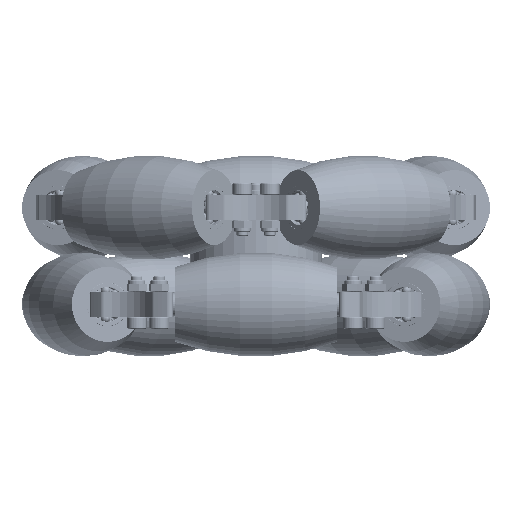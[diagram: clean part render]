
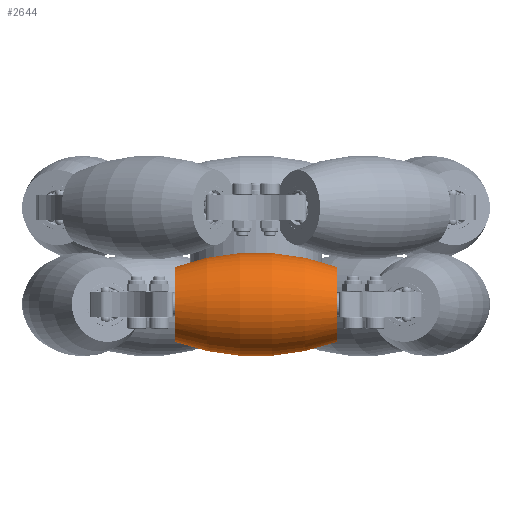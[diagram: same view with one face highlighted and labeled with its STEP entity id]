
A CAD part, front view. The second image highlights one B-rep face of the part: STEP entity #2644.
In plain terms, the highlighted toroidal (fillet/blend) face has major radius 79.1 mm and minor radius 101.6 mm.
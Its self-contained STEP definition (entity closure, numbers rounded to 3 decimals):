
#16 = AXIS2_PLACEMENT_3D ( 'NONE', #12024, #10699, #15831 ) ;
#1170 = CARTESIAN_POINT ( 'NONE',  ( -35., 79.1, -16.281 ) ) ;
#1269 = AXIS2_PLACEMENT_3D ( 'NONE', #7647, #5100, #14099 ) ;
#1321 = CARTESIAN_POINT ( 'NONE',  ( 35., 79.1, -16.281 ) ) ;
#1760 = CARTESIAN_POINT ( 'NONE',  ( 35., 79.1, 0. ) ) ;
#1929 = CARTESIAN_POINT ( 'NONE',  ( 0., 79.1, 79.1 ) ) ;
#2168 = VERTEX_POINT ( 'NONE', #12529 ) ;
#2299 = DIRECTION ( 'NONE',  ( -1., 0., 0. ) ) ;
#2644 = ADVANCED_FACE ( 'NONE', ( #3359 ), #16386, .T. ) ;
#3037 = ORIENTED_EDGE ( 'NONE', *, *, #11366, .F. ) ;
#3359 = FACE_OUTER_BOUND ( 'NONE', #13681, .T. ) ;
#3531 = EDGE_CURVE ( 'NONE', #2168, #6748, #13579, .T. ) ;
#4808 = DIRECTION ( 'NONE',  ( 0., 0., 1. ) ) ;
#5007 = EDGE_CURVE ( 'NONE', #11234, #8457, #9956, .T. ) ;
#5085 = DIRECTION ( 'NONE',  ( 0., 0., 1. ) ) ;
#5100 = DIRECTION ( 'NONE',  ( 0., -1., 0. ) ) ;
#5839 = AXIS2_PLACEMENT_3D ( 'NONE', #1760, #12815, #5085 ) ;
#6748 = VERTEX_POINT ( 'NONE', #1321 ) ;
#7647 = CARTESIAN_POINT ( 'NONE',  ( 0., 79.1, -79.1 ) ) ;
#7677 = EDGE_CURVE ( 'NONE', #6748, #8457, #8257, .T. ) ;
#8257 = CIRCLE ( 'NONE', #12865, 101.6 ) ;
#8457 = VERTEX_POINT ( 'NONE', #1170 ) ;
#8805 = ORIENTED_EDGE ( 'NONE', *, *, #3531, .T. ) ;
#9062 = CARTESIAN_POINT ( 'NONE',  ( -35., 79.1, 16.281 ) ) ;
#9928 = CIRCLE ( 'NONE', #1269, 101.6 ) ;
#9956 = CIRCLE ( 'NONE', #15505, 16.281 ) ;
#10699 = DIRECTION ( 'NONE',  ( -1., 0., 0. ) ) ;
#11234 = VERTEX_POINT ( 'NONE', #9062 ) ;
#11366 = EDGE_CURVE ( 'NONE', #2168, #11234, #9928, .T. ) ;
#12024 = CARTESIAN_POINT ( 'NONE',  ( 0., 79.1, 0. ) ) ;
#12052 = DIRECTION ( 'NONE',  ( 0., 1., 0. ) ) ;
#12529 = CARTESIAN_POINT ( 'NONE',  ( 35., 79.1, 16.281 ) ) ;
#12815 = DIRECTION ( 'NONE',  ( -1., 0., 0. ) ) ;
#12865 = AXIS2_PLACEMENT_3D ( 'NONE', #1929, #12052, #15860 ) ;
#13119 = ORIENTED_EDGE ( 'NONE', *, *, #7677, .T. ) ;
#13579 = CIRCLE ( 'NONE', #5839, 16.281 ) ;
#13681 = EDGE_LOOP ( 'NONE', ( #8805, #13119, #16232, #3037 ) ) ;
#14099 = DIRECTION ( 'NONE',  ( 1., 0., 0. ) ) ;
#15028 = CARTESIAN_POINT ( 'NONE',  ( -35., 79.1, 0. ) ) ;
#15505 = AXIS2_PLACEMENT_3D ( 'NONE', #15028, #2299, #4808 ) ;
#15831 = DIRECTION ( 'NONE',  ( 0., 0., 1. ) ) ;
#15860 = DIRECTION ( 'NONE',  ( 0., 0., 1. ) ) ;
#16232 = ORIENTED_EDGE ( 'NONE', *, *, #5007, .F. ) ;
#16386 = TOROIDAL_SURFACE ( 'NONE', #16, -79.1, 101.6 ) ;
